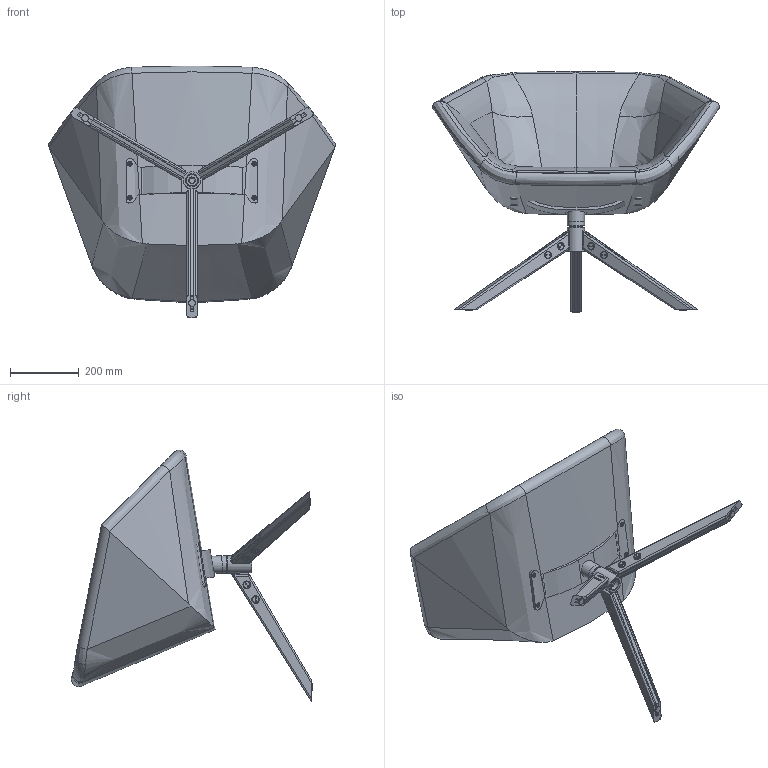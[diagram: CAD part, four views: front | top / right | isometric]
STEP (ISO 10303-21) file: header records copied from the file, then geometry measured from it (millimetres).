
FILE_DESCRIPTION (( 'STEP AP203' ), '1' );
FILE_NAME ('Ella draaivoet hout 3-poot.STEP', '2012-12-18T10:02:59', ( ' ' ), ( '' ), 'SwSTEP 2.0', 'SolidWorks 2012', '' );
FILE_SCHEMA (( 'CONFIG_CONTROL_DESIGN' ));
Length unit declared in the file: millimetre
Products named in the file (1): Ella draaivoet hout 3-poot
Bounding box: 834.19 x 700.91 x 731.53 mm (x, y, z)
Volume: 46718370.2 mm3; surface area: 1927172.4 mm2
Topology: 36 solids, 36 shells, 559 faces, 1175 edges, 746 vertices
Faces by surface type: plane 228, cylinder 189, cone 88, bspline 49, torus 3, sphere 2
Full cylindrical faces by diameter (mm): 3 x24, 5 x3, 6 x7, 6.8 x12, 8 x10, 11.9 x12, 12 x4, 12.5 x12, 13 x6, 20 x15, 22 x12, 22.999 x1, 33.8 x1, 34 x1, 40 x1, 47 x1, 50 x2, 51 x1
Entity records: 21839 total; most frequent: CARTESIAN_POINT 11046, DIRECTION 2197, ORIENTED_EDGE 1828, AXIS2_PLACEMENT_3D 937, EDGE_CURVE 914, EDGE_LOOP 887, VERTEX_POINT 703, FACE_OUTER_BOUND 687
